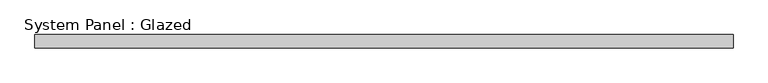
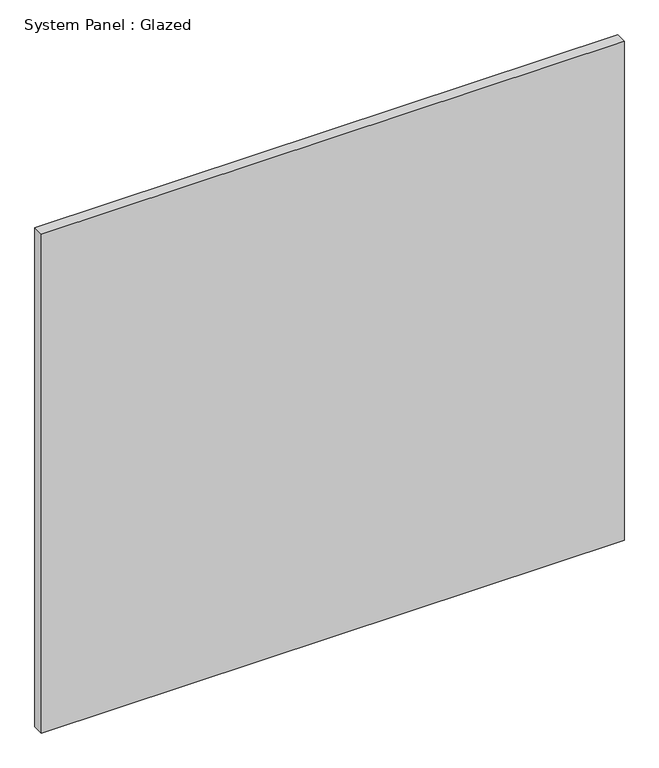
"""IFC4 building model written with IfcOpenShell, lengths in millimetres: plate geometry, System Panel : Glazed."""

from ifc_helpers import new_model, si_unit, origin, origin_with_axes, place, context, project, spatial, polyline, outline, extrude, source, transform, mapped, element, save


def system_panel_glazed_85ae8ed3(model_context):
    return source(origin(), model_context, "Body", "SweptSolid", [
        extrude(outline(polyline([(662.9893952, 24.5), (-662.9893952, 24.5), (-662.9893952, 49.5), (662.9893952, 49.5), (662.9893952, 24.5)])), origin_with_axes(), (0.0, 0.0, 1.0), 1200.0),
    ])


if __name__ == "__main__":
    model = new_model("IFC4")
    model_context = context("Model", 3, world=origin())
    ifc_project = project(units=[si_unit("LENGTHUNIT", "METRE", prefix="MILLI")], contexts=[model_context])
    site = spatial("IfcSite", under=ifc_project)
    building = spatial("IfcBuilding", under=site)
    placement = place(None, origin())
    system_panel_glazed_shape = system_panel_glazed_85ae8ed3(model_context)
    element("IfcPlate", 1, ObjectType="System Panel : Glazed", at=placement, inside=building, context=model_context, shape_type="MappedRepresentation", body=[
        mapped(system_panel_glazed_shape, transform((0.0, 0.0, 0.0), x_axis=(1.0, 0.0, 0.0), y_axis=(0.0, 1.0, 0.0), z_axis=(0.0, 0.0, 1.0))),
    ])
    save(model, "model.ifc")
